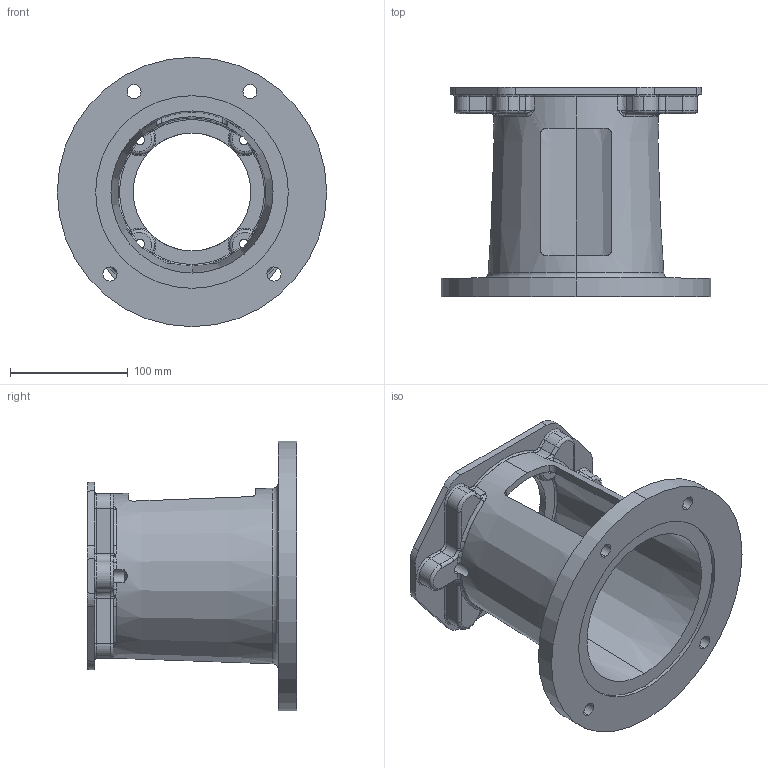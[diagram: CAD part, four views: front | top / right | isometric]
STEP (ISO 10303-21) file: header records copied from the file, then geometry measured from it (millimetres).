
FILE_DESCRIPTION (( 'STEP AP203' ), '1' );
FILE_NAME ('E64470100M.STEP', '2014-11-03T18:55:31', ( '' ), ( '' ), 'SwSTEP 2.0', 'SolidWorks 2014', '' );
FILE_SCHEMA (( 'CONFIG_CONTROL_DESIGN' ));
Length unit declared in the file: inch
Products named in the file (1): E64470100M
Bounding box: 228.6 x 177.8 x 228.6 mm (x, y, z)
Volume: 985884.6 mm3; surface area: 242058.3 mm2
Topology: 1 solids, 1 shells, 294 faces, 776 edges, 455 vertices
Faces by surface type: torus 83, cylinder 74, bspline 60, plane 43, cone 18, sphere 16
Entity records: 11427 total; most frequent: CARTESIAN_POINT 4506, ORIENTED_EDGE 1504, DIRECTION 1442, EDGE_CURVE 752, AXIS2_PLACEMENT_3D 647, VERTEX_POINT 455, CIRCLE 412, EDGE_LOOP 313
